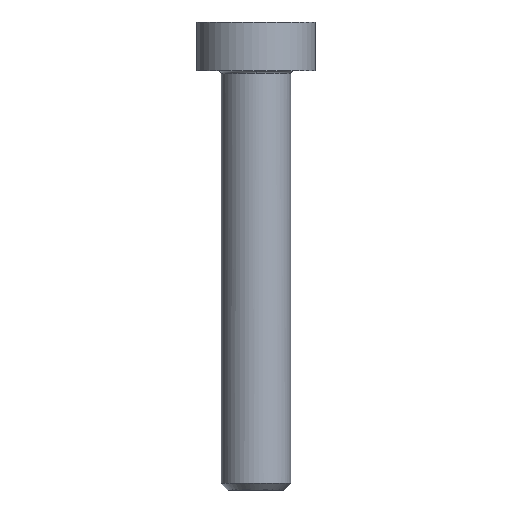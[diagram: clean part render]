
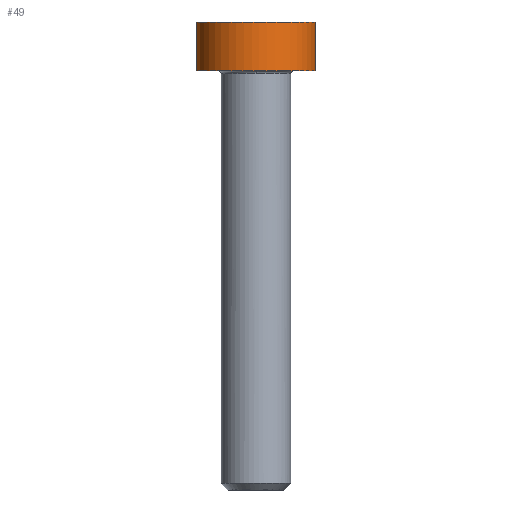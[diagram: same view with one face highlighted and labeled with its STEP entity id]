
A CAD part, left-side view. The second image highlights one B-rep face of the part: STEP entity #49.
In plain terms, the highlighted free-form (B-spline) face has degree [2, 1] with [9, 2] control points.
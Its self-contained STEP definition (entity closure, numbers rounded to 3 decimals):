
#49=ADVANCED_FACE('',(#74),#790,.T.);
#74=FACE_OUTER_BOUND('',#100,.T.);
#100=EDGE_LOOP('',(#205,#206,#207,#208));
#205=ORIENTED_EDGE('',*,*,#544,.F.);
#206=ORIENTED_EDGE('',*,*,#600,.T.);
#207=ORIENTED_EDGE('',*,*,#546,.F.);
#208=ORIENTED_EDGE('',*,*,#599,.F.);
#251=(
BOUNDED_CURVE()
B_SPLINE_CURVE(2,(#1561,#1562,#1563,#1564,#1565),.UNSPECIFIED.,.F.,.F.)
B_SPLINE_CURVE_WITH_KNOTS((3,2,3),(-13.352,-6.676,0.),
 .UNSPECIFIED.)
CURVE()
GEOMETRIC_REPRESENTATION_ITEM()
RATIONAL_B_SPLINE_CURVE((1.,0.707,1.,0.707,1.))
REPRESENTATION_ITEM('')
);
#252=(
BOUNDED_CURVE()
B_SPLINE_CURVE(2,(#1566,#1567,#1568,#1569,#1570),.UNSPECIFIED.,.F.,.F.)
B_SPLINE_CURVE_WITH_KNOTS((3,2,3),(-13.352,-6.676,0.),
 .UNSPECIFIED.)
CURVE()
GEOMETRIC_REPRESENTATION_ITEM()
RATIONAL_B_SPLINE_CURVE((1.,0.707,1.,0.707,1.))
REPRESENTATION_ITEM('')
);
#256=(
BOUNDED_CURVE()
B_SPLINE_CURVE(2,(#1584,#1585,#1586,#1587,#1588),.UNSPECIFIED.,.F.,.F.)
B_SPLINE_CURVE_WITH_KNOTS((3,2,3),(-13.352,-6.676,0.),
 .UNSPECIFIED.)
CURVE()
GEOMETRIC_REPRESENTATION_ITEM()
RATIONAL_B_SPLINE_CURVE((1.,0.707,1.,0.707,1.))
REPRESENTATION_ITEM('')
);
#257=(
BOUNDED_CURVE()
B_SPLINE_CURVE(2,(#1595,#1596,#1597,#1598,#1599),.UNSPECIFIED.,.F.,.F.)
B_SPLINE_CURVE_WITH_KNOTS((3,2,3),(-13.352,-6.676,0.),
 .UNSPECIFIED.)
CURVE()
GEOMETRIC_REPRESENTATION_ITEM()
RATIONAL_B_SPLINE_CURVE((1.,0.707,1.,0.707,1.))
REPRESENTATION_ITEM('')
);
#259=PCURVE('',#781,#373);
#261=PCURVE('',#781,#375);
#357=PCURVE('',#779,#471);
#361=PCURVE('',#790,#475);
#362=PCURVE('',#790,#476);
#363=PCURVE('',#790,#477);
#364=PCURVE('',#790,#478);
#365=PCURVE('',#780,#479);
#373=DEFINITIONAL_REPRESENTATION('',(#602),#1617);
#375=DEFINITIONAL_REPRESENTATION('',(#605),#1617);
#471=DEFINITIONAL_REPRESENTATION('',(#252),#1617);
#475=DEFINITIONAL_REPRESENTATION('',(#720),#1617);
#476=DEFINITIONAL_REPRESENTATION('',(#721),#1617);
#477=DEFINITIONAL_REPRESENTATION('',(#722),#1617);
#478=DEFINITIONAL_REPRESENTATION('',(#723),#1617);
#479=DEFINITIONAL_REPRESENTATION('',(#257),#1617);
#487=SURFACE_CURVE('',#601,(#259,#361),.PCURVE_S1.);
#489=SURFACE_CURVE('',#604,(#261,#363),.PCURVE_S1.);
#542=SURFACE_CURVE('',#251,(#357,#364),.PCURVE_S1.);
#543=SURFACE_CURVE('',#256,(#362,#365),.PCURVE_S1.);
#544=EDGE_CURVE('',#730,#731,#487,.T.);
#546=EDGE_CURVE('',#732,#733,#489,.T.);
#599=EDGE_CURVE('',#731,#732,#542,.T.);
#600=EDGE_CURVE('',#730,#733,#543,.T.);
#601=B_SPLINE_CURVE_WITH_KNOTS('',1,(#1201,#1202),.UNSPECIFIED.,.F.,.F.,
(2,2),(-3.5,0.),.UNSPECIFIED.);
#602=B_SPLINE_CURVE_WITH_KNOTS('',1,(#1203,#1204),.UNSPECIFIED.,.F.,.F.,
(2,2),(-3.5,0.),.UNSPECIFIED.);
#604=B_SPLINE_CURVE_WITH_KNOTS('',1,(#1212,#1213),.UNSPECIFIED.,.F.,.F.,
(2,2),(-3.5,0.),.UNSPECIFIED.);
#605=B_SPLINE_CURVE_WITH_KNOTS('',1,(#1214,#1215),.UNSPECIFIED.,.F.,.F.,
(2,2),(-3.5,0.),.UNSPECIFIED.);
#720=B_SPLINE_CURVE_WITH_KNOTS('',1,(#1582,#1583),.UNSPECIFIED.,.F.,.F.,
(2,2),(-3.5,0.),.UNSPECIFIED.);
#721=B_SPLINE_CURVE_WITH_KNOTS('',1,(#1589,#1590),.UNSPECIFIED.,.F.,.F.,
(2,2),(-13.352,0.),.UNSPECIFIED.);
#722=B_SPLINE_CURVE_WITH_KNOTS('',1,(#1591,#1592),.UNSPECIFIED.,.F.,.F.,
(2,2),(-3.5,0.),.UNSPECIFIED.);
#723=B_SPLINE_CURVE_WITH_KNOTS('',1,(#1593,#1594),.UNSPECIFIED.,.F.,.F.,
(2,2),(-13.352,0.),.UNSPECIFIED.);
#730=VERTEX_POINT('',#1165);
#731=VERTEX_POINT('',#1166);
#732=VERTEX_POINT('',#1167);
#733=VERTEX_POINT('',#1168);
#779=PLANE('',#824);
#780=PLANE('',#825);
#781=(
BOUNDED_SURFACE()
B_SPLINE_SURFACE(2,1,((#844,#845),(#846,#847),(#848,#849),(#850,#851),(#852,
#853),(#854,#855),(#856,#857),(#858,#859),(#860,#861)),.UNSPECIFIED.,.T.,
 .F.,.F.)
B_SPLINE_SURFACE_WITH_KNOTS((3,2,2,2,3),(2,2),(0.,1.571,3.142,
4.712,6.283),(0.,4.202),.UNSPECIFIED.)
GEOMETRIC_REPRESENTATION_ITEM()
RATIONAL_B_SPLINE_SURFACE(((1.,1.),(0.707,0.707),
(1.,1.),(0.707,0.707),(1.,1.),(0.707,
0.707),(1.,1.),(0.707,0.707),(1.,1.)))
REPRESENTATION_ITEM('')
SURFACE()
);
#790=(
BOUNDED_SURFACE()
B_SPLINE_SURFACE(2,1,((#1146,#1147),(#1148,#1149),(#1150,#1151),(#1152,#1153),
(#1154,#1155),(#1156,#1157),(#1158,#1159),(#1160,#1161),(#1162,#1163)),
 .UNSPECIFIED.,.T.,.F.,.F.)
B_SPLINE_SURFACE_WITH_KNOTS((3,2,2,2,3),(2,2),(0.,1.571,3.142,
4.712,6.283),(0.,4.202),.UNSPECIFIED.)
GEOMETRIC_REPRESENTATION_ITEM()
RATIONAL_B_SPLINE_SURFACE(((1.,1.),(0.707,0.707),
(1.,1.),(0.707,0.707),(1.,1.),(0.707,
0.707),(1.,1.),(0.707,0.707),(1.,1.)))
REPRESENTATION_ITEM('')
SURFACE()
);
#824=AXIS2_PLACEMENT_3D('',#1145,#841,$);
#825=AXIS2_PLACEMENT_3D('',#1164,#842,$);
#841=DIRECTION('',(0.,0.,1.));
#842=DIRECTION('',(0.,0.,-1.));
#844=CARTESIAN_POINT('',(-720.85,45.,51.851));
#845=CARTESIAN_POINT('',(-720.85,45.,47.649));
#846=CARTESIAN_POINT('',(-720.85,40.75,51.851));
#847=CARTESIAN_POINT('',(-720.85,40.75,47.649));
#848=CARTESIAN_POINT('',(-716.6,40.75,51.851));
#849=CARTESIAN_POINT('',(-716.6,40.75,47.649));
#850=CARTESIAN_POINT('',(-712.35,40.75,51.851));
#851=CARTESIAN_POINT('',(-712.35,40.75,47.649));
#852=CARTESIAN_POINT('',(-712.35,45.,51.851));
#853=CARTESIAN_POINT('',(-712.35,45.,47.649));
#854=CARTESIAN_POINT('',(-712.35,49.25,51.851));
#855=CARTESIAN_POINT('',(-712.35,49.25,47.649));
#856=CARTESIAN_POINT('',(-716.6,49.25,51.851));
#857=CARTESIAN_POINT('',(-716.6,49.25,47.649));
#858=CARTESIAN_POINT('',(-720.85,49.25,51.851));
#859=CARTESIAN_POINT('',(-720.85,49.25,47.649));
#860=CARTESIAN_POINT('',(-720.85,45.,51.851));
#861=CARTESIAN_POINT('',(-720.85,45.,47.649));
#1145=CARTESIAN_POINT('',(-721.701,50.101,48.));
#1146=CARTESIAN_POINT('',(-712.35,45.,51.851));
#1147=CARTESIAN_POINT('',(-712.35,45.,47.649));
#1148=CARTESIAN_POINT('',(-712.35,49.25,51.851));
#1149=CARTESIAN_POINT('',(-712.35,49.25,47.649));
#1150=CARTESIAN_POINT('',(-716.6,49.25,51.851));
#1151=CARTESIAN_POINT('',(-716.6,49.25,47.649));
#1152=CARTESIAN_POINT('',(-720.85,49.25,51.851));
#1153=CARTESIAN_POINT('',(-720.85,49.25,47.649));
#1154=CARTESIAN_POINT('',(-720.85,45.,51.851));
#1155=CARTESIAN_POINT('',(-720.85,45.,47.649));
#1156=CARTESIAN_POINT('',(-720.85,40.75,51.851));
#1157=CARTESIAN_POINT('',(-720.85,40.75,47.649));
#1158=CARTESIAN_POINT('',(-716.6,40.75,51.851));
#1159=CARTESIAN_POINT('',(-716.6,40.75,47.649));
#1160=CARTESIAN_POINT('',(-712.35,40.75,51.851));
#1161=CARTESIAN_POINT('',(-712.35,40.75,47.649));
#1162=CARTESIAN_POINT('',(-712.35,45.,51.851));
#1163=CARTESIAN_POINT('',(-712.35,45.,47.649));
#1164=CARTESIAN_POINT('',(-721.701,39.899,51.5));
#1165=CARTESIAN_POINT('',(-716.6,49.25,51.5));
#1166=CARTESIAN_POINT('',(-716.6,49.25,48.));
#1167=CARTESIAN_POINT('',(-716.6,40.75,48.));
#1168=CARTESIAN_POINT('',(-716.6,40.75,51.5));
#1201=CARTESIAN_POINT('',(-716.6,49.25,51.5));
#1202=CARTESIAN_POINT('',(-716.6,49.25,48.));
#1203=CARTESIAN_POINT('',(4.712,0.351));
#1204=CARTESIAN_POINT('',(4.712,3.851));
#1212=CARTESIAN_POINT('',(-716.6,40.75,48.));
#1213=CARTESIAN_POINT('',(-716.6,40.75,51.5));
#1214=CARTESIAN_POINT('',(1.571,3.851));
#1215=CARTESIAN_POINT('',(1.571,0.351));
#1561=CARTESIAN_POINT('',(-716.6,49.25,48.));
#1562=CARTESIAN_POINT('',(-720.85,49.25,48.));
#1563=CARTESIAN_POINT('',(-720.85,45.,48.));
#1564=CARTESIAN_POINT('',(-720.85,40.75,48.));
#1565=CARTESIAN_POINT('',(-716.6,40.75,48.));
#1566=CARTESIAN_POINT('',(-0.775,0.));
#1567=CARTESIAN_POINT('',(-0.775,-4.25));
#1568=CARTESIAN_POINT('',(3.475,-4.25));
#1569=CARTESIAN_POINT('',(7.725,-4.25));
#1570=CARTESIAN_POINT('',(7.725,0.));
#1582=CARTESIAN_POINT('',(1.571,0.351));
#1583=CARTESIAN_POINT('',(1.571,3.851));
#1584=CARTESIAN_POINT('',(-716.6,49.25,51.5));
#1585=CARTESIAN_POINT('',(-720.85,49.25,51.5));
#1586=CARTESIAN_POINT('',(-720.85,45.,51.5));
#1587=CARTESIAN_POINT('',(-720.85,40.75,51.5));
#1588=CARTESIAN_POINT('',(-716.6,40.75,51.5));
#1589=CARTESIAN_POINT('',(1.571,0.351));
#1590=CARTESIAN_POINT('',(4.712,0.351));
#1591=CARTESIAN_POINT('',(4.712,3.851));
#1592=CARTESIAN_POINT('',(4.712,0.351));
#1593=CARTESIAN_POINT('',(1.571,3.851));
#1594=CARTESIAN_POINT('',(4.712,3.851));
#1595=CARTESIAN_POINT('',(2.125,0.));
#1596=CARTESIAN_POINT('',(2.125,-4.25));
#1597=CARTESIAN_POINT('',(-2.125,-4.25));
#1598=CARTESIAN_POINT('',(-6.375,-4.25));
#1599=CARTESIAN_POINT('',(-6.375,0.));
#1617=(
GEOMETRIC_REPRESENTATION_CONTEXT(2)
PARAMETRIC_REPRESENTATION_CONTEXT()
REPRESENTATION_CONTEXT('pspace','')
);
